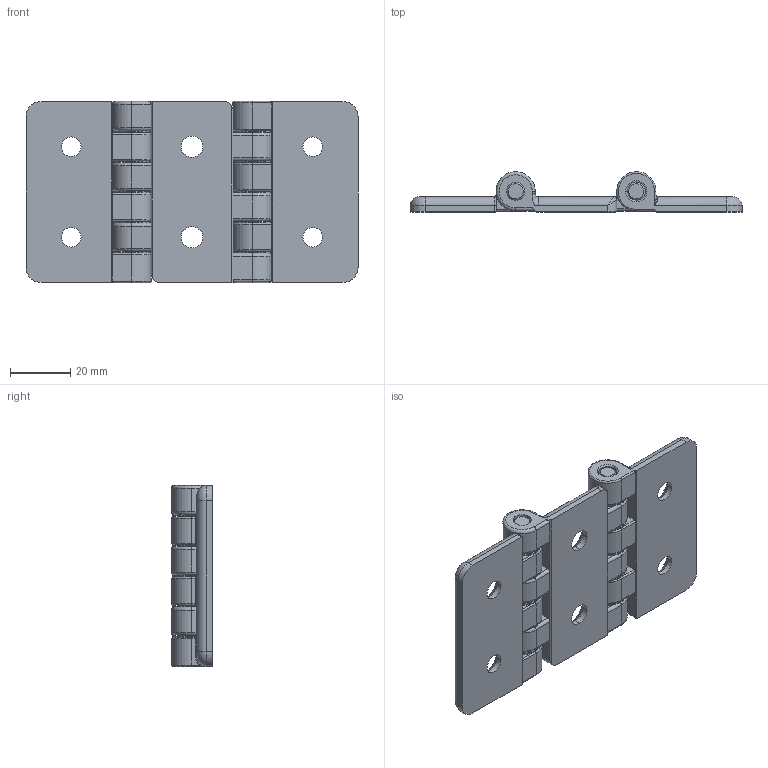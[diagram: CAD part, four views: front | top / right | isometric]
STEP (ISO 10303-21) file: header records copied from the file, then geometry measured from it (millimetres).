
FILE_DESCRIPTION (( 'STEP AP214' ), '1' );
FILE_NAME ('B30 KH-267W-1.STEP', '2012-03-20T06:05:41', ( '' ), ( '' ), 'SwSTEP 2.0', 'SolidWorks 2012', '' );
FILE_SCHEMA (( 'AUTOMOTIVE_DESIGN' ));
Length unit declared in the file: millimetre
Products named in the file (5): KH-267W-1(WASHER); KH-267W-1(PIN); KH-267W-1(BODYA(2)); KH-267W-1(BODYA); B30 KH-267W-1
Assembly tree (15 placements, depth 2):
  B30 KH-267W-1
    KH-267W-1(BODYA)  x2
    KH-267W-1(BODYA(2))
    KH-267W-1(PIN)  x2
    KH-267W-1(WASHER)  x10
Bounding box: 110 x 13.3 x 60 mm (x, y, z)
Volume: 39172.1 mm3; surface area: 25104.3 mm2
Topology: 15 solids, 15 shells, 376 faces, 896 edges, 546 vertices
Faces by surface type: cylinder 183, plane 98, torus 69, cone 20, bspline 6
Entity records: 7503 total; most frequent: CARTESIAN_POINT 1626, DIRECTION 1298, ORIENTED_EDGE 1132, EDGE_CURVE 566, AXIS2_PLACEMENT_3D 523, VERTEX_POINT 343, CIRCLE 279, EDGE_LOOP 259
